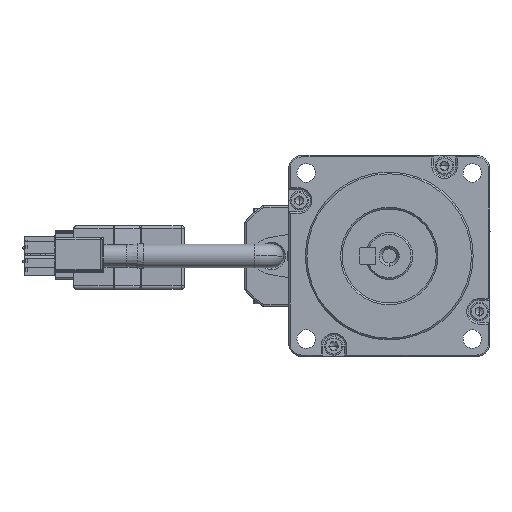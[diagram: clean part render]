
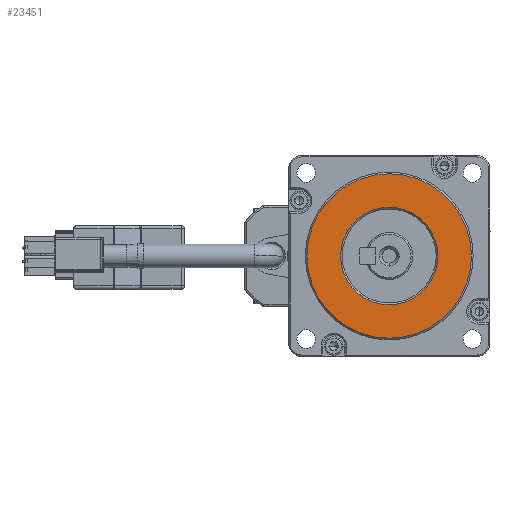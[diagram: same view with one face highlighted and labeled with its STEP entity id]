
A CAD part, left-side view. The second image highlights one B-rep face of the part: STEP entity #23451.
In plain terms, the highlighted planar face has unit normal (-1, 0, 0).
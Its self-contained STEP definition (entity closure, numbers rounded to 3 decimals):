
#1081 = PLANE ( 'NONE',  #29391 ) ;
#1222 = DIRECTION ( 'NONE',  ( -1., 0., 0. ) ) ;
#1641 = VERTEX_POINT ( 'NONE', #9549 ) ;
#2385 = DIRECTION ( 'NONE',  ( 0., 0., -1. ) ) ;
#4590 = DIRECTION ( 'NONE',  ( 1., 0., 0. ) ) ;
#5046 = CIRCLE ( 'NONE', #6517, 14.5 ) ;
#6517 = AXIS2_PLACEMENT_3D ( 'NONE', #44563, #23430, #2385 ) ;
#9549 = CARTESIAN_POINT ( 'NONE',  ( -5.4, 0., 14.5 ) ) ;
#10851 = VERTEX_POINT ( 'NONE', #34849 ) ;
#11424 = FACE_BOUND ( 'NONE', #43387, .T. ) ;
#12078 = CIRCLE ( 'NONE', #35736, 14.5 ) ;
#12508 = FACE_OUTER_BOUND ( 'NONE', #29614, .T. ) ;
#13145 = CARTESIAN_POINT ( 'NONE',  ( -5.4, 0., 0. ) ) ;
#15129 = CARTESIAN_POINT ( 'NONE',  ( -5.4, 0., 0. ) ) ;
#16668 = DIRECTION ( 'NONE',  ( 0., 0., -1. ) ) ;
#18656 = DIRECTION ( 'NONE',  ( 1., 0., 0. ) ) ;
#19027 = VERTEX_POINT ( 'NONE', #40939 ) ;
#22293 = CARTESIAN_POINT ( 'NONE',  ( -5.4, 0., 0. ) ) ;
#23430 = DIRECTION ( 'NONE',  ( 1., 0., 0. ) ) ;
#23451 = ADVANCED_FACE ( 'NONE', ( #11424, #12508 ), #1081, .F. ) ;
#25029 = EDGE_CURVE ( 'NONE', #19027, #44015, #39908, .T. ) ;
#25800 = DIRECTION ( 'NONE',  ( 0., 0., -1. ) ) ;
#26152 = EDGE_CURVE ( 'NONE', #1641, #10851, #5046, .T. ) ;
#26472 = AXIS2_PLACEMENT_3D ( 'NONE', #13145, #37738, #16668 ) ;
#26535 = AXIS2_PLACEMENT_3D ( 'NONE', #22293, #1222, #25800 ) ;
#27191 = EDGE_CURVE ( 'NONE', #44015, #19027, #36933, .T. ) ;
#29204 = DIRECTION ( 'NONE',  ( 0., 0., -1. ) ) ;
#29391 = AXIS2_PLACEMENT_3D ( 'NONE', #15129, #4590, #29204 ) ;
#29614 = EDGE_LOOP ( 'NONE', ( #33383, #44802 ) ) ;
#32204 = ORIENTED_EDGE ( 'NONE', *, *, #32975, .T. ) ;
#32975 = EDGE_CURVE ( 'NONE', #10851, #1641, #12078, .T. ) ;
#33383 = ORIENTED_EDGE ( 'NONE', *, *, #25029, .T. ) ;
#34849 = CARTESIAN_POINT ( 'NONE',  ( -5.4, 0., -14.5 ) ) ;
#35736 = AXIS2_PLACEMENT_3D ( 'NONE', #39746, #18656, #43280 ) ;
#36078 = ORIENTED_EDGE ( 'NONE', *, *, #26152, .T. ) ;
#36933 = CIRCLE ( 'NONE', #26535, 24.5 ) ;
#37738 = DIRECTION ( 'NONE',  ( -1., 0., 0. ) ) ;
#39746 = CARTESIAN_POINT ( 'NONE',  ( -5.4, 0., 0. ) ) ;
#39908 = CIRCLE ( 'NONE', #26472, 24.5 ) ;
#40939 = CARTESIAN_POINT ( 'NONE',  ( -5.4, 0., -24.5 ) ) ;
#41851 = CARTESIAN_POINT ( 'NONE',  ( -5.4, 0., 24.5 ) ) ;
#43280 = DIRECTION ( 'NONE',  ( 0., 0., -1. ) ) ;
#43387 = EDGE_LOOP ( 'NONE', ( #36078, #32204 ) ) ;
#44015 = VERTEX_POINT ( 'NONE', #41851 ) ;
#44563 = CARTESIAN_POINT ( 'NONE',  ( -5.4, 0., 0. ) ) ;
#44802 = ORIENTED_EDGE ( 'NONE', *, *, #27191, .T. ) ;
